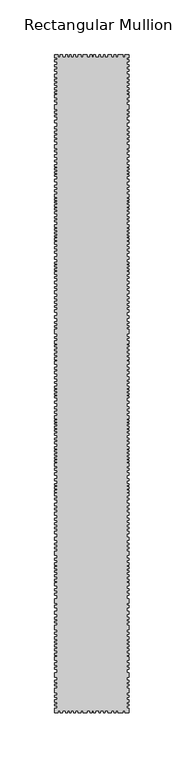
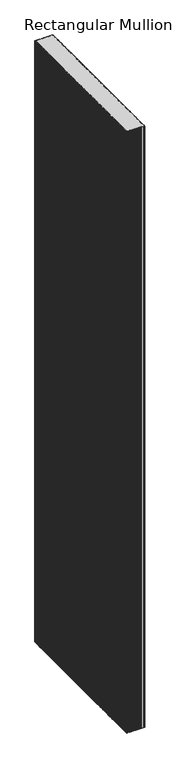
"""IFC4 building model written with IfcOpenShell, lengths in millimetres: member geometry, Rectangular Mullion : DucoSun Cubic Design louvre 600."""

import ifcopenshell
import ifcopenshell.guid

model = None  # the IFC model being written
_history = None  # IfcOwnerHistory: only IFC2X3 demands one
_inside = {}  # id of a spatial element -> (the spatial element, [elements in it])
_under = {}  # id of a project, library or spatial element -> (it, [spatial elements below it])
_declared = {}  # id of a project -> (the project, [libraries it declares])
_typed = {}  # id of a type object -> (the type object, [elements of that type])
_made_of = {}  # id of a material, layer set ... -> (it, [elements and type objects made of it])


def new_model(schema):
    """Start an empty IFC model of exactly this schema.

    Asked for "IFC4X3", IfcOpenShell would pick the latest addendum, in which some entities
    have other attributes; the version numbers below select the first issue.
    IFC2X3 requires an IfcOwnerHistory on every rooted entity: one is made here for all.
    """
    global model, _history
    if schema == "IFC4X3":
        model = ifcopenshell.file(schema_version=(4, 3, 0, 0))
    else:
        model = ifcopenshell.file(schema=schema)
    _inside.clear()
    _under.clear()
    _declared.clear()
    _typed.clear()
    _made_of.clear()
    _history = None
    if model.schema == "IFC2X3":
        org = make("IfcOrganization", Name="unknown")
        user = make(
            "IfcPersonAndOrganization",
            ThePerson=make("IfcPerson", FamilyName="unknown"),
            TheOrganization=org,
        )
        app = make(
            "IfcApplication",
            ApplicationDeveloper=org,
            Version="unknown",
            ApplicationFullName="unknown",
            ApplicationIdentifier="unknown",
        )
        _history = make(
            "IfcOwnerHistory",
            OwningUser=user,
            OwningApplication=app,
            ChangeAction="ADDED",
            CreationDate=0,
        )
    return model


def make(cls, **values):
    """One entity of the class cls with the attributes given. An attribute that is None is left unset."""
    return model.create_entity(
        cls, **{name: value for name, value in values.items() if value is not None}
    )


def rooted(cls, **values):
    """An entity with a GlobalId (a new one), such as an element, a storey or a relation."""
    return make(cls, GlobalId=ifcopenshell.guid.new(), OwnerHistory=_history, **values)


def si_unit(unit_type, name, prefix=None):
    """IfcSIUnit, for example si_unit("LENGTHUNIT", "METRE", prefix="MILLI")."""
    return make("IfcSIUnit", UnitType=unit_type, Prefix=prefix, Name=name)


def assignment(units):
    """IfcUnitAssignment: the units of a project."""
    return None if units is None else make("IfcUnitAssignment", Units=units)


def point(xyz):
    """IfcCartesianPoint."""
    return None if xyz is None else make("IfcCartesianPoint", Coordinates=xyz)


def direction(xyz):
    """IfcDirection."""
    return None if xyz is None else make("IfcDirection", DirectionRatios=xyz)


def frame(location, z_axis=None, x_axis=None):
    """IfcAxis2Placement3D, a coordinate frame: its origin and axes. An axis left out is left unset."""
    return make(
        "IfcAxis2Placement3D",
        Location=point(location),
        Axis=direction(z_axis),
        RefDirection=direction(x_axis),
    )


def origin():
    """The frame at (0, 0, 0) with its axes left unset."""
    return frame((0.0, 0.0, 0.0))


def place(relative_to, where):
    """IfcLocalPlacement: puts the frame where relative to a parent placement (None: the world)."""
    return make(
        "IfcLocalPlacement", PlacementRelTo=relative_to, RelativePlacement=where
    )


def context(
    kind, dimensions, precision=None, world=None, true_north=None, identifier=None
):
    """IfcGeometricRepresentationContext, for example the 3D "Model" context."""
    return make(
        "IfcGeometricRepresentationContext",
        ContextIdentifier=identifier,
        ContextType=kind,
        CoordinateSpaceDimension=dimensions,
        Precision=precision,
        WorldCoordinateSystem=world,
        TrueNorth=true_north,
    )


def project(units=None, contexts=None):
    """IfcProject with its units and contexts."""
    return rooted(
        "IfcProject",
        Name="project",
        RepresentationContexts=contexts,
        UnitsInContext=assignment(units),
    )


def spatial(cls, under=None, at=None, **own):
    """A site, building, storey or space (cls), placed at a placement, below another one or the project."""
    s = rooted(cls, ObjectPlacement=at, **own)
    if under is not None:
        _under.setdefault(under.id(), (under, []))[1].append(s)
    return s


def polyline(points):
    """IfcPolyline through the points."""
    return make("IfcPolyline", Points=[point(p) for p in points])


def outline(outer, holes=None, kind="AREA"):
    """IfcArbitraryClosedProfileDef: a profile drawn as a closed curve; with holes, ...WithVoids."""
    if holes is None:
        return make("IfcArbitraryClosedProfileDef", ProfileType=kind, OuterCurve=outer)
    return make(
        "IfcArbitraryProfileDefWithVoids",
        ProfileType=kind,
        OuterCurve=outer,
        InnerCurves=holes,
    )


def extrude(swept, where, along, depth):
    """IfcExtrudedAreaSolid: the profile swept, set in the frame where, extruded along a direction by depth."""
    return make(
        "IfcExtrudedAreaSolid",
        SweptArea=swept,
        Position=where,
        ExtrudedDirection=direction(along),
        Depth=depth,
    )


def shape(context_of_items, identifier, shape_type, items):
    """IfcShapeRepresentation: the items that make up one representation, for example the "Body"."""
    return make(
        "IfcShapeRepresentation",
        ContextOfItems=context_of_items,
        RepresentationIdentifier=identifier,
        RepresentationType=shape_type,
        Items=items,
    )


def source(mapping_origin, context_of_items, identifier, shape_type, items):
    """IfcRepresentationMap: a shape defined once, which mapped items show again and again."""
    return make(
        "IfcRepresentationMap",
        MappingOrigin=mapping_origin,
        MappedRepresentation=shape(context_of_items, identifier, shape_type, items),
    )


def transform(
    local_origin,
    x_axis=None,
    y_axis=None,
    z_axis=None,
    scale=None,
    scale2=None,
    scale3=None,
    uniform=True,
):
    """IfcCartesianTransformationOperator3D, or its non-uniform kind. x_axis, y_axis, z_axis: its Axis1, 2, 3."""
    if uniform:
        return make(
            "IfcCartesianTransformationOperator3D",
            Axis1=direction(x_axis),
            Axis2=direction(y_axis),
            LocalOrigin=point(local_origin),
            Scale=scale,
            Axis3=direction(z_axis),
        )
    return make(
        "IfcCartesianTransformationOperator3DnonUniform",
        Axis1=direction(x_axis),
        Axis2=direction(y_axis),
        LocalOrigin=point(local_origin),
        Scale=scale,
        Axis3=direction(z_axis),
        Scale2=scale2,
        Scale3=scale3,
    )


def mapped(mapping_source, mapping_target):
    """IfcMappedItem: shows the shape of a source again, moved by a transform."""
    return make(
        "IfcMappedItem", MappingSource=mapping_source, MappingTarget=mapping_target
    )


def made_of(thing, what):
    """Note that an element or type object is made of a material, layer set ...; save() writes the relation."""
    if what is not None:
        _made_of.setdefault(what.id(), (what, []))[1].append(thing)
    return thing


def element(
    cls,
    number,
    at=None,
    inside=None,
    cuts=None,
    type_object=None,
    material=None,
    context=None,
    identifier="Body",
    shape_type=None,
    held_by="IfcProductDefinitionShape",
    body=None,
    shapes=None,
    **own,
):
    """One element of the class cls, such as IfcWall. Its Tag is "e" and its number.

    at: its placement. inside: the storey or other place that contains it. cuts: it is an
    opening in that element (IfcRelVoidsElement). A single representation is given by context,
    identifier, shape_type and body (its items); several are given by shapes. held_by: the class
    of the entity that holds the representations. save() writes the other relations.
    """
    e = rooted(cls, Tag="e%d" % number, ObjectPlacement=at, **own)
    if body is not None:
        shapes = [shape(context, identifier, shape_type, body)]
    if shapes is not None:
        e.Representation = make(held_by, Representations=shapes)
    if inside is not None:
        _inside.setdefault(inside.id(), (inside, []))[1].append(e)
    if cuts is not None:
        rooted(
            "IfcRelVoidsElement", RelatingBuildingElement=cuts, RelatedOpeningElement=e
        )
    if type_object is not None:
        _typed.setdefault(type_object.id(), (type_object, []))[1].append(e)
    return made_of(e, material)


def aggregate(whole, parts):
    """IfcRelAggregates: a whole, such as a stair, and the parts it consists of."""
    return rooted("IfcRelAggregates", RelatingObject=whole, RelatedObjects=parts)


def save(model, path):
    """Write the relations noted so far, then the file.

    IfcRelAggregates (storeys below a building ...), IfcRelContainedInSpatialStructure (elements
    in a storey), IfcRelDefinesByType, IfcRelAssociatesMaterial and IfcRelDeclares: one each for
    every whole, place, type object, material and project.
    """
    for whole, parts in _under.values():
        aggregate(whole, parts)
    for where, things in _inside.values():
        rooted(
            "IfcRelContainedInSpatialStructure",
            RelatedElements=things,
            RelatingStructure=where,
        )
    for kind, things in _typed.values():
        rooted("IfcRelDefinesByType", RelatedObjects=things, RelatingType=kind)
    for what, things in _made_of.values():
        rooted("IfcRelAssociatesMaterial", RelatedObjects=things, RelatingMaterial=what)
    for by, libraries in _declared.values():
        rooted("IfcRelDeclares", RelatingContext=by, RelatedDefinitions=libraries)
    model.write(path)


def rectangular_mullion_309ca4e3(model_context):
    return source(origin(), model_context, "Body", "SweptSolid", [
        extrude(outline(polyline([(0.0, 597.3782451), (-2.0, 597.3782451), (-2.0, 595.4241521), (0.0, 595.4241521), (0.0, 593.6532553), (-2.0, 593.6532553), (-2.0, 590.9460223), (0.0, 590.9460223), (0.0, 588.9105087), (-2.0, 588.9105087), (-2.0, 586.7121541), (0.0, 586.7121541), (0.0, 585.0023227), (-2.0, 585.0023227), (-2.0, 582.3561551), (0.0, 582.3561551), (0.0, 579.3843053), (-2.0, 579.3843053), (-2.0, 577.8917893), (0.0, 577.8917893), (0.0, 575.8425117), (-2.0, 575.8425117), (-2.0, 573.8680636), (0.0, 573.8680636), (0.0, 572.1582322), (-2.0, 572.1582322), (-2.0, 570.0820083), (0.0, 570.0820083), (0.0, 568.3111116), (-2.0, 568.3111116), (-2.0, 566.4995045), (0.0, 566.4995045), (0.0, 565.0713495), (-2.0, 565.0713495), (-2.0, 563.4577392), (0.0, 563.4577392), (0.0, 561.0328231), (-2.0, 561.0328231), (-2.0, 558.5725067), (0.0, 558.5725067), (0.0, 557.0325964), (-2.0, 557.0325964), (-2.0, 554.5014796), (0.0, 554.5014796), (0.0, 550.4127524), (-2.0, 550.4127524), (-2.0, 548.4126391), (0.0, 548.4126391), (0.0, 546.8373286), (-2.0, 546.8373286), (-2.0, 544.9965163), (0.0, 544.9965163), (0.0, 543.3504053), (-2.0, 543.3504053), (-2.0, 540.3767855), (0.0, 540.3767855), (0.0, 537.9545244), (-2.0, 537.9545244), (-2.0, 534.5552168), (0.0, 534.5552168), (0.0, 532.5197032), (-2.0, 532.5197032), (-2.0, 530.239928), (0.0, 530.239928), (0.0, 528.6929377), (-2.0, 528.6929377), (-2.0, 526.4335177), (0.0, 526.4335177), (0.0, 524.5608452), (-2.0, 524.5608452), (-2.0, 522.6271073), (0.0, 522.6271073), (0.0, 520.5508835), (-2.0, 520.5508835), (-2.0, 518.0064916), (0.0, 518.0064916), (0.0, 514.9328661), (-2.0, 514.9328661), (-2.0, 512.9177077), (0.0, 512.9177077), (0.0, 511.4114277), (-2.0, 511.4114277), (-2.0, 508.9688114), (0.0, 508.9688114), (0.0, 506.7118273), (-2.0, 506.7118273), (-2.0, 503.8852623), (0.0, 503.8852623), (0.0, 502.4316003), (-2.0, 502.4316003), (-2.0, 499.9011516), (0.0, 499.9011516), (0.0, 497.8552569), (-2.0, 497.8552569), (-2.0, 496.6169522), (0.0, 496.6169522), (0.0, 495.0825312), (-2.0, 495.0825312), (-2.0, 493.4673512), (0.0, 493.4673512), (0.0, 492.0675286), (-2.0, 492.0675286), (-2.0, 490.5869469), (0.0, 490.5869469), (0.0, 489.1602046), (-2.0, 489.1602046), (-2.0, 486.3310055), (0.0, 486.3310055), (0.0, 484.2608252), (-2.0, 484.2608252), (-2.0, 481.1919832), (0.0, 481.1919832), (0.0, 479.2537672), (-2.0, 479.2537672), (-2.0, 476.9360418), (0.0, 476.9360418), (0.0, 475.0004598), (-2.0, 475.0004598), (-2.0, 472.9007258), (0.0, 472.9007258), (0.0, 470.1010805), (-2.0, 470.1010805), (-2.0, 468.8089365), (0.0, 468.8089365), (0.0, 467.3014351), (-2.0, 467.3014351), (-2.0, 466.0362108), (0.0, 466.0362108), (0.0, 465.0401831), (-2.0, 465.0401831), (-2.0, 463.2096458), (0.0, 463.2096458), (0.0, 461.6483051), (-2.0, 461.6483051), (-2.0, 460.1408038), (0.0, 460.1408038), (0.0, 458.6063828), (-2.0, 458.6063828), (-2.0, 457.0719618), (0.0, 457.0719618), (0.0, 455.0799064), (-2.0, 455.0799064), (-2.0, 452.3762692), (0.0, 452.3762692), (0.0, 450.8903036), (-2.0, 450.8903036), (-2.0, 449.1257194), (0.0, 449.1257194), (0.0, 447.6087962), (-2.0, 447.6087962), (-2.0, 444.8535683), (0.0, 444.8535683), (0.0, 442.7484504), (-2.0, 442.7484504), (-2.0, 441.4172729), (0.0, 441.4172729), (0.0, 439.9622649), (-2.0, 439.9622649), (-2.0, 438.3524688), (0.0, 438.3524688), (0.0, 436.8355456), (-2.0, 436.8355456), (-2.0, 435.1947919), (0.0, 435.1947919), (0.0, 433.9255296), (-2.0, 433.9255296), (-2.0, 432.5014792), (0.0, 432.5014792), (0.0, 431.1083865), (-2.0, 431.1083865), (-2.0, 429.6843361), (0.0, 429.6843361), (0.0, 427.0529387), (-2.0, 427.0529387), (-2.0, 424.9787784), (0.0, 424.9787784), (0.0, 423.0284485), (-2.0, 423.0284485), (-2.0, 420.7995001), (0.0, 420.7995001), (0.0, 418.8182126), (-2.0, 418.8182126), (-2.0, 415.6914933), (0.0, 415.6914933), (0.0, 413.4935025), (-2.0, 413.4935025), (-2.0, 410.954978), (0.0, 410.954978), (0.0, 409.4070971), (-2.0, 409.4070971), (-2.0, 408.1378348), (0.0, 408.1378348), (0.0, 406.4970812), (-2.0, 406.4970812), (-2.0, 404.8253698), (0.0, 404.8253698), (0.0, 403.3394042), (-2.0, 403.3394042), (-2.0, 402.0391843), (0.0, 402.0391843), (0.0, 400.0578969), (-2.0, 400.0578969), (-2.0, 397.6741604), (0.0, 397.6741604), (0.0, 396.0953219), (-2.0, 396.0953219), (-2.0, 393.3091364), (0.0, 393.3091364), (0.0, 391.0182728), (-2.0, 391.0182728), (-2.0, 388.572621), (0.0, 388.572621), (0.0, 387.1485707), (-2.0, 387.1485707), (-2.0, 385.0124951), (0.0, 385.0124951), (0.0, 382.1643944), (-2.0, 382.1643944), (-2.0, 379.3782089), (0.0, 379.3782089), (0.0, 377.427879), (-2.0, 377.427879), (-2.0, 375.4156339), (0.0, 375.4156339), (0.0, 373.6510498), (-2.0, 373.6510498), (-2.0, 371.1744404), (0.0, 371.1744404), (0.0, 369.6884748), (-2.0, 369.6884748), (-2.0, 367.5523993), (0.0, 367.5523993), (0.0, 365.4163237), (-2.0, 365.4163237), (-2.0, 362.1967316), (0.0, 362.1967316), (0.0, 359.5343765), (-2.0, 359.5343765), (-2.0, 356.7791486), (0.0, 356.7791486), (0.0, 355.0764797), (-2.0, 355.0764797), (-2.0, 352.9404041), (0.0, 352.9404041), (0.0, 351.6092266), (-2.0, 351.6092266), (-2.0, 349.5660239), (0.0, 349.5660239), (0.0, 345.512038), (-2.0, 345.512038), (-2.0, 343.0030092), (0.0, 343.0030092), (0.0, 341.3312979), (-2.0, 341.3312979), (-2.0, 339.0404342), (0.0, 339.0404342), (0.0, 336.5638249), (-2.0, 336.5638249), (-2.0, 335.015944), (0.0, 335.015944), (0.0, 333.5609361), (-2.0, 333.5609361), (-2.0, 331.5796486), (0.0, 331.5796486), (0.0, 330.0627254), (-2.0, 330.0627254), (-2.0, 327.8337769), (0.0, 327.8337769), (0.0, 326.1620656), (-2.0, 326.1620656), (-2.0, 324.0259901), (0.0, 324.0259901), (0.0, 322.0756602), (-2.0, 322.0756602), (-2.0, 320.6516099), (0.0, 320.6516099), (0.0, 317.7415939), (-2.0, 317.7415939), (-2.0, 315.2030693), (0.0, 315.2030693), (0.0, 313.1908242), (-2.0, 313.1908242), (-2.0, 311.2404944), (0.0, 311.2404944), (0.0, 309.1353764), (-2.0, 309.1353764), (-2.0, 306.2563181), (0.0, 306.2563181), (0.0, 303.7186411), (-2.0, 303.7186411), (-2.0, 301.7889994), (0.0, 301.7889994), (0.0, 300.3353374), (-2.0, 300.3353374), (-2.0, 297.8048887), (0.0, 297.8048887), (0.0, 295.758994), (-2.0, 295.758994), (-2.0, 294.5206893), (0.0, 294.5206893), (0.0, 292.9862683), (-2.0, 292.9862683), (-2.0, 291.3710883), (0.0, 291.3710883), (0.0, 289.9712657), (-2.0, 289.9712657), (-2.0, 288.490684), (0.0, 288.490684), (0.0, 287.0639417), (-2.0, 287.0639417), (-2.0, 284.2347426), (0.0, 284.2347426), (0.0, 282.1645623), (-2.0, 282.1645623), (-2.0, 279.0957203), (0.0, 279.0957203), (0.0, 277.1575043), (-2.0, 277.1575043), (-2.0, 274.8397789), (0.0, 274.8397789), (0.0, 272.9041969), (-2.0, 272.9041969), (-2.0, 270.8044629), (0.0, 270.8044629), (0.0, 268.0048176), (-2.0, 268.0048176), (-2.0, 266.7126736), (0.0, 266.7126736), (0.0, 265.2051722), (-2.0, 265.2051722), (-2.0, 263.9399479), (0.0, 263.9399479), (0.0, 262.9439202), (-2.0, 262.9439202), (-2.0, 261.1133829), (0.0, 261.1133829), (0.0, 259.5520422), (-2.0, 259.5520422), (-2.0, 258.0445409), (0.0, 258.0445409), (0.0, 256.5101199), (-2.0, 256.5101199), (-2.0, 254.9756989), (0.0, 254.9756989), (0.0, 252.9836435), (-2.0, 252.9836435), (-2.0, 250.2800063), (0.0, 250.2800063), (0.0, 248.7940407), (-2.0, 248.7940407), (-2.0, 247.0294565), (0.0, 247.0294565), (0.0, 245.5125333), (-2.0, 245.5125333), (-2.0, 242.7573054), (0.0, 242.7573054), (0.0, 240.6521875), (-2.0, 240.6521875), (-2.0, 239.32101), (0.0, 239.32101), (0.0, 237.866002), (-2.0, 237.866002), (-2.0, 236.2562059), (0.0, 236.2562059), (0.0, 234.7392827), (-2.0, 234.7392827), (-2.0, 233.098529), (0.0, 233.098529), (0.0, 231.8292667), (-2.0, 231.8292667), (-2.0, 230.4052163), (0.0, 230.4052163), (0.0, 229.0121236), (-2.0, 229.0121236), (-2.0, 227.5880732), (0.0, 227.5880732), (0.0, 224.9566758), (-2.0, 224.9566758), (-2.0, 222.8825155), (0.0, 222.8825155), (0.0, 220.9321856), (-2.0, 220.9321856), (-2.0, 218.7032372), (0.0, 218.7032372), (0.0, 216.7219497), (-2.0, 216.7219497), (-2.0, 213.5952304), (0.0, 213.5952304), (0.0, 211.3972396), (-2.0, 211.3972396), (-2.0, 208.8587151), (0.0, 208.8587151), (0.0, 207.3108342), (-2.0, 207.3108342), (-2.0, 206.0415719), (0.0, 206.0415719), (0.0, 204.4008183), (-2.0, 204.4008183), (-2.0, 202.7291069), (0.0, 202.7291069), (0.0, 201.2431413), (-2.0, 201.2431413), (-2.0, 199.9429214), (0.0, 199.9429214), (0.0, 197.961634), (-2.0, 197.961634), (-2.0, 195.5778975), (0.0, 195.5778975), (0.0, 193.999059), (-2.0, 193.999059), (-2.0, 191.2128735), (0.0, 191.2128735), (0.0, 188.9220099), (-2.0, 188.9220099), (-2.0, 186.4763581), (0.0, 186.4763581), (0.0, 185.0523078), (-2.0, 185.0523078), (-2.0, 182.9162322), (0.0, 182.9162322), (0.0, 180.0681315), (-2.0, 180.0681315), (-2.0, 177.281946), (0.0, 177.281946), (0.0, 175.3316161), (-2.0, 175.3316161), (-2.0, 173.319371), (0.0, 173.319371), (0.0, 171.5547869), (-2.0, 171.5547869), (-2.0, 169.0781775), (0.0, 169.0781775), (0.0, 167.5922119), (-2.0, 167.5922119), (-2.0, 165.4561364), (0.0, 165.4561364), (0.0, 163.3200608), (-2.0, 163.3200608), (-2.0, 160.1004687), (0.0, 160.1004687), (0.0, 157.4381136), (-2.0, 157.4381136), (-2.0, 154.6828857), (0.0, 154.6828857), (0.0, 152.9802168), (-2.0, 152.9802168), (-2.0, 150.8441412), (0.0, 150.8441412), (0.0, 149.5129637), (-2.0, 149.5129637), (-2.0, 147.469761), (0.0, 147.469761), (0.0, 143.4157751), (-2.0, 143.4157751), (-2.0, 140.9067463), (0.0, 140.9067463), (0.0, 139.235035), (-2.0, 139.235035), (-2.0, 136.9441713), (0.0, 136.9441713), (0.0, 134.467562), (-2.0, 134.467562), (-2.0, 132.9196811), (0.0, 132.9196811), (0.0, 131.4646731), (-2.0, 131.4646731), (-2.0, 129.4833857), (0.0, 129.4833857), (0.0, 127.9664625), (-2.0, 127.9664625), (-2.0, 125.737514), (0.0, 125.737514), (0.0, 124.0658027), (-2.0, 124.0658027), (-2.0, 121.9297272), (0.0, 121.9297272), (0.0, 119.9793973), (-2.0, 119.9793973), (-2.0, 118.555347), (0.0, 118.555347), (0.0, 115.645331), (-2.0, 115.645331), (-2.0, 113.1068064), (0.0, 113.1068064), (0.0, 111.0945613), (-2.0, 111.0945613), (-2.0, 109.1442315), (0.0, 109.1442315), (0.0, 107.0391135), (-2.0, 107.0391135), (-2.0, 104.0), (0.0, 104.0), (0.0, 100.0), (-2.0, 100.0), (-2.0, 97.8639244), (0.0, 97.8639244), (0.0, 95.7278489), (-2.0, 95.7278489), (-2.0, 92.5082567), (0.0, 92.5082567), (0.0, 89.8459017), (-2.0, 89.8459017), (-2.0, 87.0906738), (0.0, 87.0906738), (0.0, 85.3880049), (-2.0, 85.3880049), (-2.0, 83.2519293), (0.0, 83.2519293), (0.0, 81.9207518), (-2.0, 81.9207518), (-2.0, 79.8775491), (0.0, 79.8775491), (0.0, 75.8235632), (-2.0, 75.8235632), (-2.0, 73.3145343), (0.0, 73.3145343), (0.0, 71.642823), (-2.0, 71.642823), (-2.0, 69.3519594), (0.0, 69.3519594), (0.0, 66.8753501), (-2.0, 66.8753501), (-2.0, 65.3274692), (0.0, 65.3274692), (0.0, 63.8724612), (-2.0, 63.8724612), (-2.0, 61.8911738), (0.0, 61.8911738), (0.0, 60.3742505), (-2.0, 60.3742505), (-2.0, 58.1453021), (0.0, 58.1453021), (0.0, 56.4735908), (-2.0, 56.4735908), (-2.0, 54.3375153), (0.0, 54.3375153), (0.0, 52.3871854), (-2.0, 52.3871854), (-2.0, 50.963135), (0.0, 50.963135), (0.0, 48.0531191), (-2.0, 48.0531191), (-2.0, 45.5145945), (0.0, 45.5145945), (0.0, 43.5023494), (-2.0, 43.5023494), (-2.0, 41.5520195), (0.0, 41.5520195), (0.0, 39.4469016), (-2.0, 39.4469016), (-2.0, 36.4077881), (0.0, 36.4077881), (0.0, 32.4077881), (-2.0, 32.4077881), (-2.0, 29.6525602), (0.0, 29.6525602), (0.0, 27.9498913), (-2.0, 27.9498913), (-2.0, 25.8138157), (0.0, 25.8138157), (0.0, 24.4826382), (-2.0, 24.4826382), (-2.0, 22.4394355), (0.0, 22.4394355), (0.0, 18.3854496), (-2.0, 18.3854496), (-2.0, 15.8764207), (0.0, 15.8764207), (0.0, 14.2047094), (-2.0, 14.2047094), (-2.0, 11.9138458), (0.0, 11.9138458), (0.0, 9.4372364), (-2.0, 9.4372364), (-2.0, 7.8893556), (0.0, 7.8893556), (0.0, 6.4343476), (-2.0, 6.4343476), (-2.0, 4.0), (0.0, 4.0), (0.0, 0.0), (-3.5455586, 0.0), (-3.5455586, 2.0), (-5.372058, 2.0), (-5.372058, 0.0), (-10.0157006, 0.0), (-10.0157006, 2.0), (-12.1827337, 2.0), (-12.1827337, 0.0), (-13.6996569, 0.0), (-13.6996569, 2.0), (-16.0524358, 2.0), (-16.0524358, 0.0), (-19.1172399, 0.0), (-19.1172399, 2.0), (-21.9034254, 2.0), (-21.9034254, 0.0), (-23.6060943, 0.0), (-23.6060943, 2.0), (-25.9898308, 2.0), (-25.9898308, 0.0), (-27.4757964, 0.0), (-27.4757964, 2.0), (-30.5115322, 2.0), (-30.5115322, 0.0), (-32.2905711, 0.0), (-32.2905711, 2.0), (-34.0, 2.0), (-34.0, 0.0), (-35.8486488, 0.0), (-35.8486488, 2.0), (-38.2128978, 2.0), (-38.2128978, 0.0), (-41.9816511, 0.0), (-41.9816511, 2.0), (-44.0415908, 2.0), (-44.0415908, 0.0), (-46.7335575, 0.0), (-46.7335575, 2.0), (-49.0041729, 2.0), (-49.0041729, 0.0), (-50.8768453, 0.0), (-50.8768453, 2.0), (-52.9367851, 2.0), (-52.9367851, 0.0), (-54.2710642, 0.0), (-54.2710642, 2.0), (-56.3075955, 2.0), (-56.3075955, 0.0), (-57.8993671, 0.0), (-57.8993671, 2.0), (-60.9658683, 2.0), (-60.9658683, 0.0), (-62.9321744, 0.0), (-62.9321744, 2.0), (-64.8750721, 2.0), (-64.8750721, 0.0), (-68.0, 0.0), (-68.0, 4.0), (-66.0, 4.0), (-66.0, 6.4343476), (-68.0, 6.4343476), (-68.0, 7.8893556), (-66.0, 7.8893556), (-66.0, 9.4372364), (-68.0, 9.4372364), (-68.0, 11.9138458), (-66.0, 11.9138458), (-66.0, 14.2047094), (-68.0, 14.2047094), (-68.0, 15.8764207), (-66.0, 15.8764207), (-66.0, 18.3854496), (-68.0, 18.3854496), (-68.0, 22.4394355), (-66.0, 22.4394355), (-66.0, 24.4826382), (-68.0, 24.4826382), (-68.0, 25.8138157), (-66.0, 25.8138157), (-66.0, 27.9498913), (-68.0, 27.9498913), (-68.0, 29.6525602), (-66.0, 29.6525602), (-66.0, 32.4077881), (-68.0, 32.4077881), (-68.0, 36.4077881), (-66.0, 36.4077881), (-66.0, 39.4469016), (-68.0, 39.4469016), (-68.0, 41.5520195), (-66.0, 41.5520195), (-66.0, 43.5023494), (-68.0, 43.5023494), (-68.0, 45.5145945), (-66.0, 45.5145945), (-66.0, 48.0531191), (-68.0, 48.0531191), (-68.0, 50.963135), (-66.0, 50.963135), (-66.0, 52.3871854), (-68.0, 52.3871854), (-68.0, 54.3375153), (-66.0, 54.3375153), (-66.0, 56.4735908), (-68.0, 56.4735908), (-68.0, 58.1453021), (-66.0, 58.1453021), (-66.0, 60.3742505), (-68.0, 60.3742505), (-68.0, 61.8911738), (-66.0, 61.8911738), (-66.0, 63.8724612), (-68.0, 63.8724612), (-68.0, 65.3274692), (-66.0, 65.3274692), (-66.0, 66.8753501), (-68.0, 66.8753501), (-68.0, 69.3519594), (-66.0, 69.3519594), (-66.0, 71.642823), (-68.0, 71.642823), (-68.0, 73.3145343), (-66.0, 73.3145343), (-66.0, 75.8235632), (-68.0, 75.8235632), (-68.0, 79.8775491), (-66.0, 79.8775491), (-66.0, 81.9207518), (-68.0, 81.9207518), (-68.0, 83.2519293), (-66.0, 83.2519293), (-66.0, 85.3880049), (-68.0, 85.3880049), (-68.0, 87.0906738), (-66.0, 87.0906738), (-66.0, 89.8459017), (-68.0, 89.8459017), (-68.0, 92.5082567), (-66.0, 92.5082567), (-66.0, 95.7278489), (-68.0, 95.7278489), (-68.0, 97.8639244), (-66.0, 97.8639244), (-66.0, 100.0), (-68.0, 100.0), (-68.0, 104.0), (-66.0, 104.0), (-66.0, 107.0391135), (-68.0, 107.0391135), (-68.0, 109.1442315), (-66.0, 109.1442315), (-66.0, 111.0945613), (-68.0, 111.0945613), (-68.0, 113.1068064), (-66.0, 113.1068064), (-66.0, 115.645331), (-68.0, 115.645331), (-68.0, 118.555347), (-66.0, 118.555347), (-66.0, 119.9793973), (-68.0, 119.9793973), (-68.0, 121.9297272), (-66.0, 121.9297272), (-66.0, 124.0658027), (-68.0, 124.0658027), (-68.0, 125.737514), (-66.0, 125.737514), (-66.0, 127.9664625), (-68.0, 127.9664625), (-68.0, 129.4833857), (-66.0, 129.4833857), (-66.0, 131.4646731), (-68.0, 131.4646731), (-68.0, 132.9196811), (-66.0, 132.9196811), (-66.0, 134.467562), (-68.0, 134.467562), (-68.0, 136.9441713), (-66.0, 136.9441713), (-66.0, 139.235035), (-68.0, 139.235035), (-68.0, 140.9067463), (-66.0, 140.9067463), (-66.0, 143.4157751), (-68.0, 143.4157751), (-68.0, 147.469761), (-66.0, 147.469761), (-66.0, 149.5129637), (-68.0, 149.5129637), (-68.0, 150.8441412), (-66.0, 150.8441412), (-66.0, 152.9802168), (-68.0, 152.9802168), (-68.0, 154.6828857), (-66.0, 154.6828857), (-66.0, 157.4381136), (-68.0, 157.4381136), (-68.0, 160.1004687), (-66.0, 160.1004687), (-66.0, 163.3200608), (-68.0, 163.3200608), (-68.0, 165.4561364), (-66.0, 165.4561364), (-66.0, 167.5922119), (-68.0, 167.5922119), (-68.0, 169.0781775), (-66.0, 169.0781775), (-66.0, 171.5547869), (-68.0, 171.5547869), (-68.0, 173.319371), (-66.0, 173.319371), (-66.0, 175.3316161), (-68.0, 175.3316161), (-68.0, 177.281946), (-66.0, 177.281946), (-66.0, 180.0681315), (-68.0, 180.0681315), (-68.0, 182.9162322), (-66.0, 182.9162322), (-66.0, 185.0523078), (-68.0, 185.0523078), (-68.0, 186.4763581), (-66.0, 186.4763581), (-66.0, 188.9220099), (-68.0, 188.9220099), (-68.0, 191.2128735), (-66.0, 191.2128735), (-66.0, 193.999059), (-68.0, 193.999059), (-68.0, 195.5778975), (-66.0, 195.5778975), (-66.0, 197.961634), (-68.0, 197.961634), (-68.0, 199.9429214), (-66.0, 199.9429214), (-66.0, 201.2431413), (-68.0, 201.2431413), (-68.0, 202.7291069), (-66.0, 202.7291069), (-66.0, 204.4008183), (-68.0, 204.4008183), (-68.0, 206.0415719), (-66.0, 206.0415719), (-66.0, 207.3108342), (-68.0, 207.3108342), (-68.0, 208.8587151), (-66.0, 208.8587151), (-66.0, 211.3972396), (-68.0, 211.3972396), (-68.0, 213.5952304), (-66.0, 213.5952304), (-66.0, 216.7219497), (-68.0, 216.7219497), (-68.0, 218.7032372), (-66.0, 218.7032372), (-66.0, 220.9321856), (-68.0, 220.9321856), (-68.0, 222.8825155), (-66.0, 222.8825155), (-66.0, 224.9566758), (-68.0, 224.9566758), (-68.0, 227.5880732), (-66.0, 227.5880732), (-66.0, 229.0121236), (-68.0, 229.0121236), (-68.0, 230.4052163), (-66.0, 230.4052163), (-66.0, 231.8292667), (-68.0, 231.8292667), (-68.0, 233.098529), (-66.0, 233.098529), (-66.0, 234.7392827), (-68.0, 234.7392827), (-68.0, 236.2562059), (-66.0, 236.2562059), (-66.0, 237.866002), (-68.0, 237.866002), (-68.0, 239.32101), (-66.0, 239.32101), (-66.0, 240.6521875), (-68.0, 240.6521875), (-68.0, 242.7573054), (-66.0, 242.7573054), (-66.0, 245.5125333), (-68.0, 245.5125333), (-68.0, 247.0294565), (-66.0, 247.0294565), (-66.0, 248.7940407), (-68.0, 248.7940407), (-68.0, 250.2800063), (-66.0, 250.2800063), (-66.0, 252.9836435), (-68.0, 252.9836435), (-68.0, 254.9756989), (-66.0, 254.9756989), (-66.0, 256.5101199), (-68.0, 256.5101199), (-68.0, 258.0445409), (-66.0, 258.0445409), (-66.0, 259.5520422), (-68.0, 259.5520422), (-68.0, 261.1133829), (-66.0, 261.1133829), (-66.0, 262.9439202), (-68.0, 262.9439202), (-68.0, 263.9399479), (-66.0, 263.9399479), (-66.0, 265.2051722), (-68.0, 265.2051722), (-68.0, 266.7126736), (-66.0, 266.7126736), (-66.0, 268.0048176), (-68.0, 268.0048176), (-68.0, 270.8044629), (-66.0, 270.8044629), (-66.0, 272.9041969), (-68.0, 272.9041969), (-68.0, 274.8397789), (-66.0, 274.8397789), (-66.0, 277.1575043), (-68.0, 277.1575043), (-68.0, 279.0957203), (-66.0, 279.0957203), (-66.0, 282.1645623), (-68.0, 282.1645623), (-68.0, 284.2347426), (-66.0, 284.2347426), (-66.0, 287.0639417), (-68.0, 287.0639417), (-68.0, 288.490684), (-66.0, 288.490684), (-66.0, 289.9712657), (-68.0, 289.9712657), (-68.0, 291.3710883), (-66.0, 291.3710883), (-66.0, 292.9862683), (-68.0, 292.9862683), (-68.0, 294.5206893), (-66.0, 294.5206893), (-66.0, 295.758994), (-68.0, 295.758994), (-68.0, 297.8048887), (-66.0, 297.8048887), (-66.0, 300.3353374), (-68.0, 300.3353374), (-68.0, 301.7889994), (-66.0, 301.7889994), (-66.0, 304.6155644), (-68.0, 304.6155644), (-68.0, 306.2563181), (-66.0, 306.2563181), (-66.0, 309.1353764), (-68.0, 309.1353764), (-68.0, 311.2404944), (-66.0, 311.2404944), (-66.0, 313.1908242), (-68.0, 313.1908242), (-68.0, 315.2030693), (-66.0, 315.2030693), (-66.0, 317.7415939), (-68.0, 317.7415939), (-68.0, 320.6516099), (-66.0, 320.6516099), (-66.0, 322.0756602), (-68.0, 322.0756602), (-68.0, 324.0259901), (-66.0, 324.0259901), (-66.0, 326.1620656), (-68.0, 326.1620656), (-68.0, 327.8337769), (-66.0, 327.8337769), (-66.0, 330.0627254), (-68.0, 330.0627254), (-68.0, 331.5796486), (-66.0, 331.5796486), (-66.0, 333.5609361), (-68.0, 333.5609361), (-68.0, 335.015944), (-66.0, 335.015944), (-66.0, 336.5638249), (-68.0, 336.5638249), (-68.0, 339.0404342), (-66.0, 339.0404342), (-66.0, 341.3312979), (-68.0, 341.3312979), (-68.0, 343.0030092), (-66.0, 343.0030092), (-66.0, 345.512038), (-68.0, 345.512038), (-68.0, 349.5660239), (-66.0, 349.5660239), (-66.0, 351.6092266), (-68.0, 351.6092266), (-68.0, 352.9404041), (-66.0, 352.9404041), (-66.0, 355.0764797), (-68.0, 355.0764797), (-68.0, 356.7791486), (-66.0, 356.7791486), (-66.0, 359.5343765), (-68.0, 359.5343765), (-68.0, 362.1967316), (-66.0, 362.1967316), (-66.0, 365.4163237), (-68.0, 365.4163237), (-68.0, 367.5523993), (-66.0, 367.5523993), (-66.0, 369.6884748), (-68.0, 369.6884748), (-68.0, 371.1744404), (-66.0, 371.1744404), (-66.0, 373.6510498), (-68.0, 373.6510498), (-68.0, 375.4156339), (-66.0, 375.4156339), (-66.0, 377.427879), (-68.0, 377.427879), (-68.0, 379.3782089), (-66.0, 379.3782089), (-66.0, 382.1643944), (-68.0, 382.1643944), (-68.0, 385.0124951), (-66.0, 385.0124951), (-66.0, 387.1485707), (-68.0, 387.1485707), (-68.0, 388.572621), (-66.0, 388.572621), (-66.0, 391.0182728), (-68.0, 391.0182728), (-68.0, 393.3091364), (-66.0, 393.3091364), (-66.0, 396.0953219), (-68.0, 396.0953219), (-68.0, 397.6741604), (-66.0, 397.6741604), (-66.0, 400.0578969), (-68.0, 400.0578969), (-68.0, 402.0391843), (-66.0, 402.0391843), (-66.0, 403.3394042), (-68.0, 403.3394042), (-68.0, 404.8253698), (-66.0, 404.8253698), (-66.0, 406.4970812), (-68.0, 406.4970812), (-68.0, 408.1378348), (-66.0, 408.1378348), (-66.0, 409.4070971), (-68.0, 409.4070971), (-68.0, 410.954978), (-66.0, 410.954978), (-66.0, 413.4935025), (-68.0, 413.4935025), (-68.0, 415.6914933), (-66.0, 415.6914933), (-66.0, 418.8182126), (-68.0, 418.8182126), (-68.0, 420.7995001), (-66.0, 420.7995001), (-66.0, 423.0284485), (-68.0, 423.0284485), (-68.0, 424.9787784), (-66.0, 424.9787784), (-66.0, 427.0529387), (-68.0, 427.0529387), (-68.0, 429.6843361), (-66.0, 429.6843361), (-66.0, 431.1083865), (-68.0, 431.1083865), (-68.0, 432.5014792), (-66.0, 432.5014792), (-66.0, 433.9255296), (-68.0, 433.9255296), (-68.0, 435.1947919), (-66.0, 435.1947919), (-66.0, 436.8355456), (-68.0, 436.8355456), (-68.0, 438.3524688), (-66.0, 438.3524688), (-66.0, 439.9622649), (-68.0, 439.9622649), (-68.0, 441.4172729), (-66.0, 441.4172729), (-66.0, 442.7484504), (-68.0, 442.7484504), (-68.0, 444.8535683), (-66.0, 444.8535683), (-66.0, 447.6087962), (-68.0, 447.6087962), (-68.0, 449.1257194), (-66.0, 449.1257194), (-66.0, 450.8903036), (-68.0, 450.8903036), (-68.0, 452.3762692), (-66.0, 452.3762692), (-66.0, 455.0799064), (-68.0, 455.0799064), (-68.0, 457.0719618), (-66.0, 457.0719618), (-66.0, 458.6063828), (-68.0, 458.6063828), (-68.0, 460.1408038), (-66.0, 460.1408038), (-66.0, 461.6483051), (-68.0, 461.6483051), (-68.0, 463.2096458), (-66.0, 463.2096458), (-66.0, 465.0401831), (-68.0, 465.0401831), (-68.0, 466.0362108), (-66.0, 466.0362108), (-66.0, 467.3014351), (-68.0, 467.3014351), (-68.0, 468.8089365), (-66.0, 468.8089365), (-66.0, 470.1010805), (-68.0, 470.1010805), (-68.0, 472.9007258), (-66.0, 472.9007258), (-66.0, 475.0004598), (-68.0, 475.0004598), (-68.0, 476.9360418), (-66.0, 476.9360418), (-66.0, 479.2537672), (-68.0, 479.2537672), (-68.0, 481.1919832), (-66.0, 481.1919832), (-66.0, 484.2608252), (-68.0, 484.2608252), (-68.0, 486.3310055), (-66.0, 486.3310055), (-66.0, 489.1602046), (-68.0, 489.1602046), (-68.0, 490.5869469), (-66.0, 490.5869469), (-66.0, 492.0675286), (-68.0, 492.0675286), (-68.0, 493.4673512), (-66.0, 493.4673512), (-66.0, 495.0825312), (-68.0, 495.0825312), (-68.0, 496.6169522), (-66.0, 496.6169522), (-66.0, 497.8552569), (-68.0, 497.8552569), (-68.0, 499.9011516), (-66.0, 499.9011516), (-66.0, 502.4316003), (-68.0, 502.4316003), (-68.0, 503.8852623), (-66.0, 503.8852623), (-66.0, 506.7118273), (-68.0, 506.7118273), (-68.0, 508.9688114), (-66.0, 508.9688114), (-66.0, 511.4114277), (-68.0, 511.4114277), (-68.0, 512.9177077), (-66.0, 512.9177077), (-66.0, 514.9328661), (-68.0, 514.9328661), (-68.0, 518.0064916), (-66.0, 518.0064916), (-66.0, 520.5508835), (-68.0, 520.5508835), (-68.0, 522.6271073), (-66.0, 522.6271073), (-66.0, 524.5608452), (-68.0, 524.5608452), (-68.0, 526.4335177), (-66.0, 526.4335177), (-66.0, 528.6929377), (-68.0, 528.6929377), (-68.0, 530.239928), (-66.0, 530.239928), (-66.0, 532.5197032), (-68.0, 532.5197032), (-68.0, 534.5552168), (-66.0, 534.5552168), (-66.0, 537.9545244), (-68.0, 537.9545244), (-68.0, 540.3767855), (-66.0, 540.3767855), (-66.0, 543.3504053), (-68.0, 543.3504053), (-68.0, 544.9965163), (-66.0, 544.9965163), (-66.0, 546.8373286), (-68.0, 546.8373286), (-68.0, 548.4126391), (-66.0, 548.4126391), (-66.0, 550.4127524), (-68.0, 550.4127524), (-68.0, 554.5014796), (-66.0, 554.5014796), (-66.0, 557.0325964), (-68.0, 557.0325964), (-68.0, 558.5725067), (-66.0, 558.5725067), (-66.0, 561.0328231), (-68.0, 561.0328231), (-68.0, 563.4577392), (-66.0, 563.4577392), (-66.0, 565.0713495), (-68.0, 565.0713495), (-68.0, 566.4995045), (-66.0, 566.4995045), (-66.0, 568.3111116), (-68.0, 568.3111116), (-68.0, 570.0820083), (-66.0, 570.0820083), (-66.0, 572.1582322), (-68.0, 572.1582322), (-68.0, 573.8680636), (-66.0, 573.8680636), (-66.0, 575.8425117), (-68.0, 575.8425117), (-68.0, 577.8917893), (-66.0, 577.8917893), (-66.0, 579.3843053), (-68.0, 579.3843053), (-68.0, 582.3561551), (-66.0, 582.3561551), (-66.0, 585.0023227), (-68.0, 585.0023227), (-68.0, 586.7121541), (-66.0, 586.7121541), (-66.0, 588.9105087), (-68.0, 588.9105087), (-68.0, 590.9460223), (-66.0, 590.9460223), (-66.0, 593.6532553), (-68.0, 593.6532553), (-68.0, 595.4241521), (-66.0, 595.4241521), (-66.0, 597.3782451), (-68.0, 597.3782451), (-68.0, 600.0), (-64.8750721, 600.0), (-64.8750721, 598.0), (-62.9321744, 598.0), (-62.9321744, 600.0), (-60.9658683, 600.0), (-60.9658683, 598.0), (-57.8993671, 598.0), (-57.8993671, 600.0), (-56.3075955, 600.0), (-56.3075955, 598.0), (-54.2710642, 598.0), (-54.2710642, 600.0), (-52.9367851, 600.0), (-52.9367851, 598.0), (-50.8768453, 598.0), (-50.8768453, 600.0), (-49.0041729, 600.0), (-49.0041729, 598.0), (-46.7335575, 598.0), (-46.7335575, 600.0), (-44.0415908, 600.0), (-44.0415908, 598.0), (-41.9816511, 598.0), (-41.9816511, 600.0), (-38.2128978, 600.0), (-38.2128978, 598.0), (-35.8486488, 598.0), (-35.8486488, 600.0), (-34.0, 600.0), (-34.0, 598.0), (-32.2905711, 598.0), (-32.2905711, 600.0), (-30.5115322, 600.0), (-30.5115322, 598.0), (-27.4757964, 598.0), (-27.4757964, 600.0), (-25.9898308, 600.0), (-25.9898308, 598.0), (-23.6060943, 598.0), (-23.6060943, 600.0), (-21.9034254, 600.0), (-21.9034254, 598.0), (-19.1172399, 598.0), (-19.1172399, 600.0), (-16.0524358, 600.0), (-16.0524358, 598.0), (-13.6996569, 598.0), (-13.6996569, 600.0), (-12.1827337, 600.0), (-12.1827337, 598.0), (-10.0157006, 598.0), (-10.0157006, 600.0), (-5.372058, 600.0), (-5.372058, 598.0), (-3.5455586, 598.0), (-3.5455586, 600.0), (0.0, 600.0), (0.0, 597.3782451)])), frame((0.0, 0.0, -2400.0), z_axis=(0.0, 0.0, 1.0), x_axis=(1.0, 0.0, 0.0)), (0.0, 0.0, 1.0), 2400.0),
    ])


if __name__ == "__main__":
    model = new_model("IFC4")
    model_context = context("Model", 3, world=origin())
    ifc_project = project(units=[si_unit("LENGTHUNIT", "METRE", prefix="MILLI")], contexts=[model_context])
    site = spatial("IfcSite", under=ifc_project)
    building = spatial("IfcBuilding", under=site)
    placement = place(None, origin())
    rectangular_mullion_shape = rectangular_mullion_309ca4e3(model_context)
    element("IfcMember", 1, ObjectType="Rectangular Mullion : DucoSun Cubic Design louvre 600", at=placement, inside=building, context=model_context, shape_type="MappedRepresentation", body=[
        mapped(rectangular_mullion_shape, transform((0.0, 0.0, 0.0), x_axis=(1.0, 0.0, 0.0), y_axis=(0.0, 1.0, 0.0), z_axis=(0.0, 0.0, 1.0))),
    ])
    save(model, "model.ifc")
